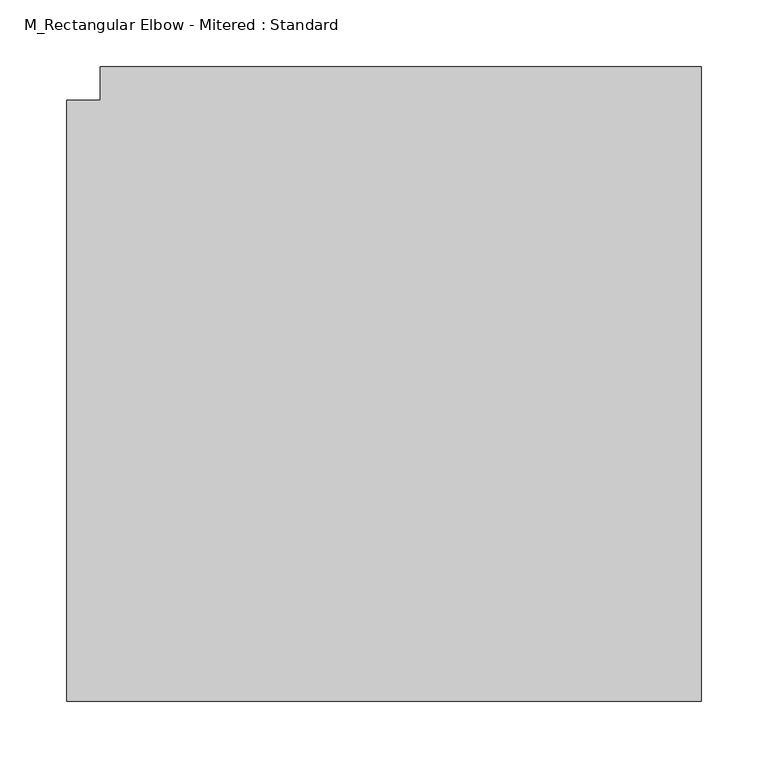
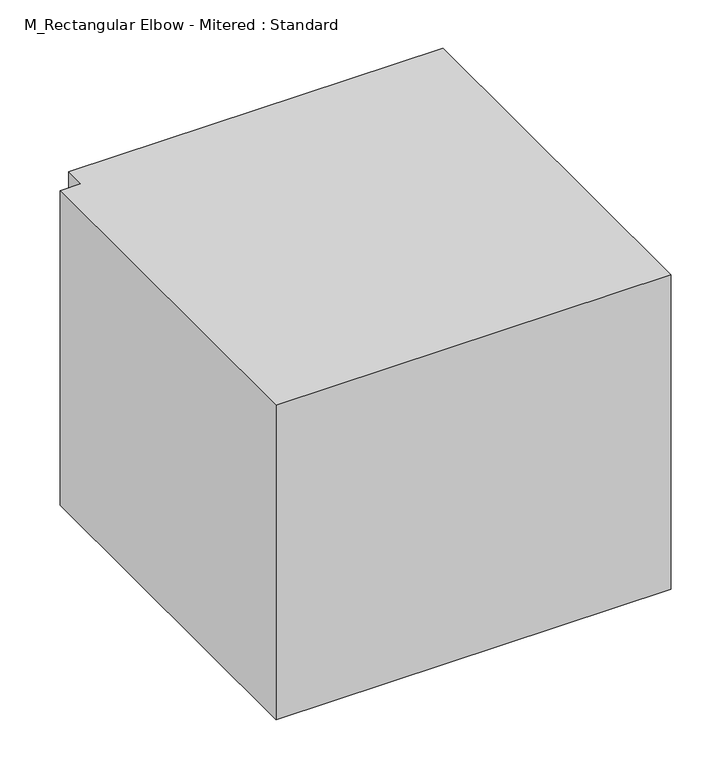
"""IFC4 building model written with IfcOpenShell, lengths in millimetres: duct fitting geometry, M_Rectangular Elbow - Mitered : Standard."""

from ifc_helpers import new_model, si_unit, frame, origin, place, context, project, spatial, polyline, outline, extrude, source, transform, mapped, element, save


def m_rectangular_elbow_mitered_standard_115de672(model_context):
    return source(origin(), model_context, "Body", "SweptSolid", [
        extrude(outline(polyline([(-250.0, -225.0), (-250.0, 225.0), (-225.0, 225.0), (-225.0, 250.0), (225.0, 250.0), (225.0, -225.0), (-250.0, -225.0)])), frame((0.0, 0.0, -200.0), z_axis=(0.0, 0.0, 1.0), x_axis=(1.0, 0.0, 0.0)), (0.0, 0.0, 1.0), 400.0),
        extrude(outline(polyline([(-250.0, -225.0), (-250.0, 225.0), (-225.0, 225.0), (-225.0, 250.0), (225.0, 250.0), (225.0, -225.0), (-250.0, -225.0)])), frame((0.0, 0.0, -200.0), z_axis=(0.0, 0.0, 1.0), x_axis=(1.0, 0.0, 0.0)), (0.0, 0.0, 1.0), 400.0),
        extrude(outline(polyline([(-250.0, -225.0), (-250.0, 225.0), (-225.0, 225.0), (-225.0, 250.0), (225.0, 250.0), (225.0, -225.0), (-250.0, -225.0)])), frame((0.0, 0.0, -200.0), z_axis=(0.0, 0.0, 1.0), x_axis=(1.0, 0.0, 0.0)), (0.0, 0.0, 1.0), 400.0),
    ])


if __name__ == "__main__":
    model = new_model("IFC4")
    model_context = context("Model", 3, world=origin())
    ifc_project = project(units=[si_unit("LENGTHUNIT", "METRE", prefix="MILLI")], contexts=[model_context])
    site = spatial("IfcSite", under=ifc_project)
    building = spatial("IfcBuilding", under=site)
    placement = place(None, origin())
    m_rectangular_elbow_mitered_standard_shape = m_rectangular_elbow_mitered_standard_115de672(model_context)
    element("IfcDuctFitting", 1, ObjectType="M_Rectangular Elbow - Mitered : Standard", at=placement, inside=building, context=model_context, shape_type="MappedRepresentation", body=[
        mapped(m_rectangular_elbow_mitered_standard_shape, transform((0.0, 0.0, 0.0), x_axis=(1.0, 0.0, 0.0), y_axis=(0.0, 1.0, 0.0), z_axis=(0.0, 0.0, 1.0))),
    ])
    save(model, "model.ifc")
